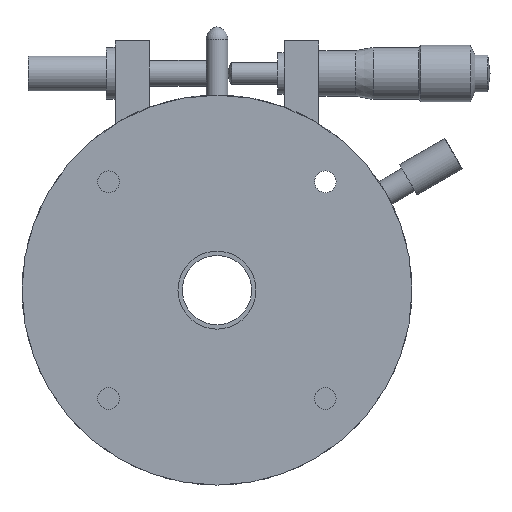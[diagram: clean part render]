
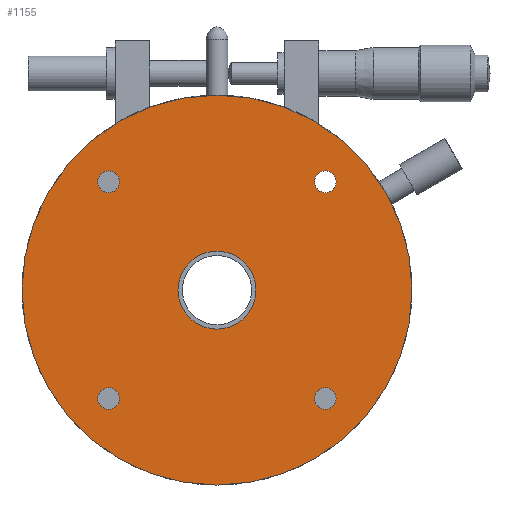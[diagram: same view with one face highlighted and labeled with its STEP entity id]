
A CAD part, front view. The second image highlights one B-rep face of the part: STEP entity #1155.
In plain terms, the highlighted planar face has unit normal (0, -1, 0).
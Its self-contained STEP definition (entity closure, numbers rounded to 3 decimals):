
#121 = VERTEX_POINT ( 'NONE', #1538 ) ;
#131 = EDGE_CURVE ( 'NONE', #121, #140, #1506, .T. ) ;
#140 = VERTEX_POINT ( 'NONE', #1473 ) ;
#579 = EDGE_CURVE ( 'NONE', #580, #581, #2425, .T. ) ;
#580 = VERTEX_POINT ( 'NONE', #2324 ) ;
#581 = VERTEX_POINT ( 'NONE', #2288 ) ;
#670 = EDGE_CURVE ( 'NONE', #671, #684, #2551, .T. ) ;
#671 = VERTEX_POINT ( 'NONE', #2547 ) ;
#684 = VERTEX_POINT ( 'NONE', #2370 ) ;
#729 = EDGE_CURVE ( 'NONE', #765, #768, #3951, .T. ) ;
#756 = EDGE_CURVE ( 'NONE', #757, #758, #3128, .T. ) ;
#757 = VERTEX_POINT ( 'NONE', #3130 ) ;
#758 = VERTEX_POINT ( 'NONE', #3129 ) ;
#765 = VERTEX_POINT ( 'NONE', #3103 ) ;
#768 = VERTEX_POINT ( 'NONE', #3122 ) ;
#776 = EDGE_CURVE ( 'NONE', #777, #778, #3179, .T. ) ;
#777 = VERTEX_POINT ( 'NONE', #3181 ) ;
#778 = VERTEX_POINT ( 'NONE', #3180 ) ;
#898 = EDGE_CURVE ( 'NONE', #684, #671, #3346, .T. ) ;
#904 = EDGE_CURVE ( 'NONE', #581, #580, #3360, .T. ) ;
#953 = EDGE_CURVE ( 'NONE', #140, #121, #3480, .T. ) ;
#954 = EDGE_CURVE ( 'NONE', #778, #777, #3631, .T. ) ;
#1009 = EDGE_CURVE ( 'NONE', #758, #757, #3570, .T. ) ;
#1091 = EDGE_LOOP ( 'NONE', ( #1199, #1147 ) ) ;
#1092 = ORIENTED_EDGE ( 'NONE', *, *, #756, .T. ) ;
#1093 = ORIENTED_EDGE ( 'NONE', *, *, #954, .T. ) ;
#1125 = ORIENTED_EDGE ( 'NONE', *, *, #776, .T. ) ;
#1126 = ORIENTED_EDGE ( 'NONE', *, *, #729, .T. ) ;
#1127 = EDGE_CURVE ( 'NONE', #768, #765, #3673, .T. ) ;
#1128 = ORIENTED_EDGE ( 'NONE', *, *, #953, .F. ) ;
#1129 = ORIENTED_EDGE ( 'NONE', *, *, #1009, .T. ) ;
#1130 = ORIENTED_EDGE ( 'NONE', *, *, #1127, .T. ) ;
#1131 = EDGE_LOOP ( 'NONE', ( #1128, #1200 ) ) ;
#1144 = EDGE_LOOP ( 'NONE', ( #1149, #1154 ) ) ;
#1147 = ORIENTED_EDGE ( 'NONE', *, *, #670, .T. ) ;
#1148 = EDGE_LOOP ( 'NONE', ( #1093, #1125 ) ) ;
#1149 = ORIENTED_EDGE ( 'NONE', *, *, #904, .T. ) ;
#1154 = ORIENTED_EDGE ( 'NONE', *, *, #579, .T. ) ;
#1155 = ADVANCED_FACE ( 'NONE', ( #3710, #3709, #3722, #3721, #3720, #3719 ), #3729, .T. ) ;
#1162 = EDGE_LOOP ( 'NONE', ( #1126, #1130 ) ) ;
#1198 = EDGE_LOOP ( 'NONE', ( #1129, #1092 ) ) ;
#1199 = ORIENTED_EDGE ( 'NONE', *, *, #898, .T. ) ;
#1200 = ORIENTED_EDGE ( 'NONE', *, *, #131, .F. ) ;
#1473 = CARTESIAN_POINT ( 'NONE',  ( 0., 0., -9. ) ) ;
#1502 = DIRECTION ( 'NONE',  ( 0., 0., -1. ) ) ;
#1503 = DIRECTION ( 'NONE',  ( 0., -1., 0. ) ) ;
#1504 = CARTESIAN_POINT ( 'NONE',  ( 0., 0., 0. ) ) ;
#1505 = AXIS2_PLACEMENT_3D ( 'NONE', #1504, #1503, #1502 ) ;
#1506 = CIRCLE ( 'NONE', #1505, 9. ) ;
#1538 = CARTESIAN_POINT ( 'NONE',  ( 0., 0., 9. ) ) ;
#2288 = CARTESIAN_POINT ( 'NONE',  ( -25., 0., -22.5 ) ) ;
#2324 = CARTESIAN_POINT ( 'NONE',  ( -25., 0., -27.5 ) ) ;
#2325 = DIRECTION ( 'NONE',  ( 0., 0., 1. ) ) ;
#2326 = DIRECTION ( 'NONE',  ( 0., 1., 0. ) ) ;
#2327 = CARTESIAN_POINT ( 'NONE',  ( -25., 0., -25. ) ) ;
#2328 = AXIS2_PLACEMENT_3D ( 'NONE', #2327, #2326, #2325 ) ;
#2370 = CARTESIAN_POINT ( 'NONE',  ( -25., 0., 27.5 ) ) ;
#2425 = CIRCLE ( 'NONE', #2328, 2.5 ) ;
#2475 = CARTESIAN_POINT ( 'NONE',  ( -25., 0., 25. ) ) ;
#2547 = CARTESIAN_POINT ( 'NONE',  ( -25., 0., 22.5 ) ) ;
#2548 = DIRECTION ( 'NONE',  ( 0., 0., 1. ) ) ;
#2549 = DIRECTION ( 'NONE',  ( 0., 1., 0. ) ) ;
#2550 = AXIS2_PLACEMENT_3D ( 'NONE', #2475, #2549, #2548 ) ;
#2551 = CIRCLE ( 'NONE', #2550, 2.5 ) ;
#3103 = CARTESIAN_POINT ( 'NONE',  ( 0., 0., -45. ) ) ;
#3122 = CARTESIAN_POINT ( 'NONE',  ( 0., 0., 45. ) ) ;
#3126 = CARTESIAN_POINT ( 'NONE',  ( 25., 0., -25. ) ) ;
#3127 = AXIS2_PLACEMENT_3D ( 'NONE', #3126, #3132, #3131 ) ;
#3128 = CIRCLE ( 'NONE', #3127, 2.5 ) ;
#3129 = CARTESIAN_POINT ( 'NONE',  ( 25., 0., -22.5 ) ) ;
#3130 = CARTESIAN_POINT ( 'NONE',  ( 25., 0., -27.5 ) ) ;
#3131 = DIRECTION ( 'NONE',  ( 0., 0., 1. ) ) ;
#3132 = DIRECTION ( 'NONE',  ( 0., 1., 0. ) ) ;
#3175 = DIRECTION ( 'NONE',  ( 0., 0., 1. ) ) ;
#3176 = DIRECTION ( 'NONE',  ( 0., 1., 0. ) ) ;
#3177 = CARTESIAN_POINT ( 'NONE',  ( 25., 0., 25. ) ) ;
#3178 = AXIS2_PLACEMENT_3D ( 'NONE', #3177, #3176, #3175 ) ;
#3179 = CIRCLE ( 'NONE', #3178, 2.5 ) ;
#3180 = CARTESIAN_POINT ( 'NONE',  ( 25., 0., 27.5 ) ) ;
#3181 = CARTESIAN_POINT ( 'NONE',  ( 25., 0., 22.5 ) ) ;
#3301 = DIRECTION ( 'NONE',  ( 0., 0., -1. ) ) ;
#3302 = DIRECTION ( 'NONE',  ( 0., -1., 0. ) ) ;
#3339 = DIRECTION ( 'NONE',  ( 0., 0., 1. ) ) ;
#3340 = DIRECTION ( 'NONE',  ( 0., 1., 0. ) ) ;
#3341 = AXIS2_PLACEMENT_3D ( 'NONE', #3361, #3340, #3339 ) ;
#3342 = DIRECTION ( 'NONE',  ( 0., 0., 1. ) ) ;
#3343 = DIRECTION ( 'NONE',  ( 0., 1., 0. ) ) ;
#3344 = CARTESIAN_POINT ( 'NONE',  ( -25., 0., 25. ) ) ;
#3345 = AXIS2_PLACEMENT_3D ( 'NONE', #3344, #3343, #3342 ) ;
#3346 = CIRCLE ( 'NONE', #3345, 2.5 ) ;
#3360 = CIRCLE ( 'NONE', #3341, 2.5 ) ;
#3361 = CARTESIAN_POINT ( 'NONE',  ( -25., 0., -25. ) ) ;
#3480 = CIRCLE ( 'NONE', #3496, 9. ) ;
#3496 = AXIS2_PLACEMENT_3D ( 'NONE', #3619, #3618, #3617 ) ;
#3565 = CARTESIAN_POINT ( 'NONE',  ( 25., 0., 25. ) ) ;
#3566 = DIRECTION ( 'NONE',  ( 0., 0., 1. ) ) ;
#3567 = DIRECTION ( 'NONE',  ( 0., 1., 0. ) ) ;
#3568 = CARTESIAN_POINT ( 'NONE',  ( 25., 0., -25. ) ) ;
#3569 = AXIS2_PLACEMENT_3D ( 'NONE', #3568, #3567, #3566 ) ;
#3570 = CIRCLE ( 'NONE', #3569, 2.5 ) ;
#3617 = DIRECTION ( 'NONE',  ( 0., 0., -1. ) ) ;
#3618 = DIRECTION ( 'NONE',  ( 0., -1., 0. ) ) ;
#3619 = CARTESIAN_POINT ( 'NONE',  ( 0., 0., 0. ) ) ;
#3631 = CIRCLE ( 'NONE', #3634, 2.5 ) ;
#3632 = DIRECTION ( 'NONE',  ( 0., 0., 1. ) ) ;
#3633 = DIRECTION ( 'NONE',  ( 0., 1., 0. ) ) ;
#3634 = AXIS2_PLACEMENT_3D ( 'NONE', #3565, #3633, #3632 ) ;
#3669 = DIRECTION ( 'NONE',  ( 0., 0., -1. ) ) ;
#3670 = DIRECTION ( 'NONE',  ( 0., -1., 0. ) ) ;
#3671 = CARTESIAN_POINT ( 'NONE',  ( 0., 0., 0. ) ) ;
#3672 = AXIS2_PLACEMENT_3D ( 'NONE', #3671, #3670, #3669 ) ;
#3673 = CIRCLE ( 'NONE', #3672, 45. ) ;
#3709 = FACE_BOUND ( 'NONE', #1198, .T. ) ;
#3710 = FACE_BOUND ( 'NONE', #1144, .T. ) ;
#3719 = FACE_BOUND ( 'NONE', #1131, .T. ) ;
#3720 = FACE_OUTER_BOUND ( 'NONE', #1162, .T. ) ;
#3721 = FACE_BOUND ( 'NONE', #1148, .T. ) ;
#3722 = FACE_BOUND ( 'NONE', #1091, .T. ) ;
#3727 = CARTESIAN_POINT ( 'NONE',  ( 29., 0., 0. ) ) ;
#3728 = AXIS2_PLACEMENT_3D ( 'NONE', #3727, #3302, #3301 ) ;
#3729 = PLANE ( 'NONE',  #3728 ) ;
#3928 = CARTESIAN_POINT ( 'NONE',  ( 0., 0., 0. ) ) ;
#3948 = DIRECTION ( 'NONE',  ( 0., 0., -1. ) ) ;
#3949 = DIRECTION ( 'NONE',  ( 0., -1., 0. ) ) ;
#3950 = AXIS2_PLACEMENT_3D ( 'NONE', #3928, #3949, #3948 ) ;
#3951 = CIRCLE ( 'NONE', #3950, 45. ) ;
